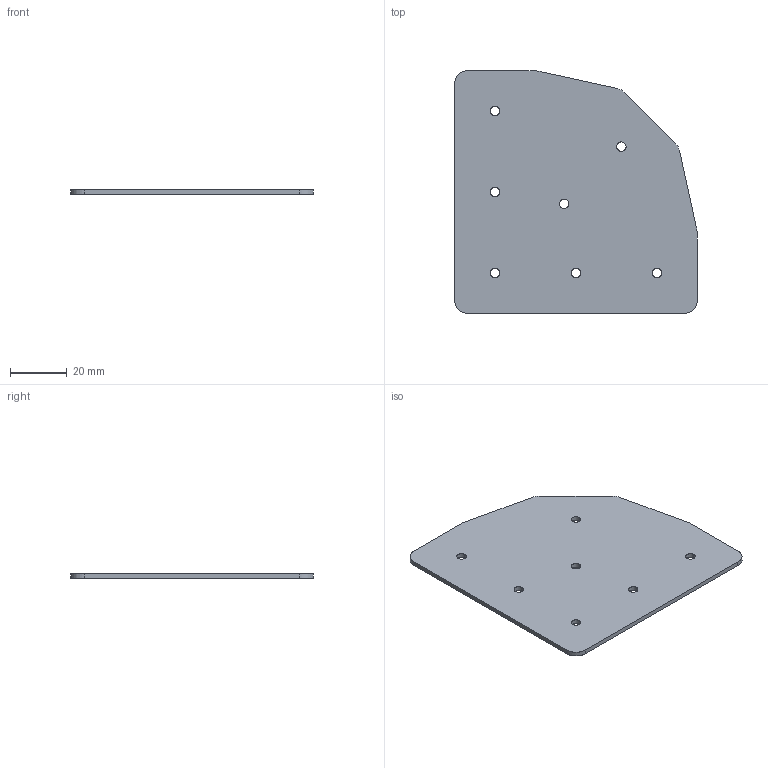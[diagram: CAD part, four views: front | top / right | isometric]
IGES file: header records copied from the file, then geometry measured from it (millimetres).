
Start section: SolidWorks IGES file using analytic representation for surfaces
Global section: file name: C:\Working\Gusset Convert\DRP-002-0004-01.igs; native system: SolidWorks 2010; preprocessor: SolidWorks 2010; author: mbush2; date: 100624.085759; units: inch
Bounding box: 85.72 x 85.72 x 1.59 mm (x, y, z)
Surface area: 13723.6 mm2 (no closed solid volume)
Topology: 0 solids, 0 shells, 30 faces, 642 edges, 642 vertices
Faces by surface type: revolution 21, bspline 9
